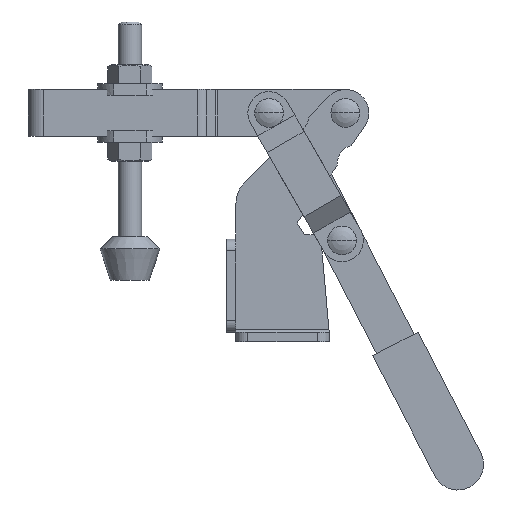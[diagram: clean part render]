
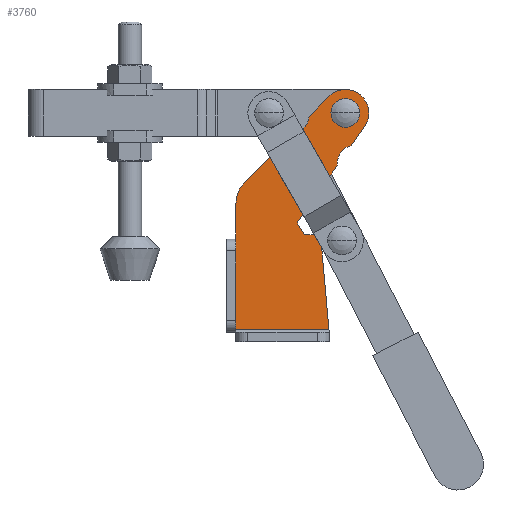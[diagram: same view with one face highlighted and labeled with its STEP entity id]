
A CAD part, front view. The second image highlights one B-rep face of the part: STEP entity #3760.
In plain terms, the highlighted planar face has unit normal (0, -1, 0).
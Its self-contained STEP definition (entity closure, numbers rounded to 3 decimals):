
#1521=CARTESIAN_POINT('Cartesian Point',(0.,-6.4,35.)) ;
#1556=CARTESIAN_POINT('Cartesian Point',(0.,-6.4,4.2)) ;
#1559=CARTESIAN_POINT('Line Origine',(0.,-6.4,19.6)) ;
#1982=CARTESIAN_POINT('Cartesian Point',(26.705,-6.4,36.5)) ;
#1985=CARTESIAN_POINT('Line Origine',(27.972,-6.4,34.245)) ;
#1989=CARTESIAN_POINT('Cartesian Point',(29.239,-6.4,31.99)) ;
#2050=CARTESIAN_POINT('Line Origine',(30.475,-6.4,18.095)) ;
#2054=CARTESIAN_POINT('Cartesian Point',(31.711,-6.4,4.2)) ;
#3369=CARTESIAN_POINT('Line Origine',(0.,-6.4,41.112)) ;
#3373=CARTESIAN_POINT('Cartesian Point',(0.,-6.4,47.223)) ;
#3393=CARTESIAN_POINT('Axis2P3D Location',(10.,-6.4,47.223)) ;
#3397=CARTESIAN_POINT('Cartesian Point',(2.85,-6.4,54.215)) ;
#3417=CARTESIAN_POINT('Line Origine',(11.166,-6.4,62.718)) ;
#3421=CARTESIAN_POINT('Cartesian Point',(19.482,-6.4,71.222)) ;
#3441=CARTESIAN_POINT('Axis2P3D Location',(18.907,-6.4,77.278)) ;
#3445=CARTESIAN_POINT('Cartesian Point',(24.975,-6.4,76.839)) ;
#3465=CARTESIAN_POINT('Line Origine',(28.278,-6.4,80.216)) ;
#3469=CARTESIAN_POINT('Cartesian Point',(31.58,-6.4,83.593)) ;
#3489=CARTESIAN_POINT('Axis2P3D Location',(37.3,-6.4,78.)) ;
#3493=CARTESIAN_POINT('Cartesian Point',(37.251,-6.4,86.)) ;
#3496=CARTESIAN_POINT('Axis2P3D Location',(37.3,-6.4,78.)) ;
#3500=CARTESIAN_POINT('Cartesian Point',(45.3,-6.4,78.032)) ;
#3503=CARTESIAN_POINT('Axis2P3D Location',(37.3,-6.4,78.)) ;
#3507=CARTESIAN_POINT('Cartesian Point',(43.862,-6.4,73.424)) ;
#3531=CARTESIAN_POINT('Line Origine',(41.58,-6.4,70.151)) ;
#3535=CARTESIAN_POINT('Cartesian Point',(39.298,-6.4,66.879)) ;
#3555=CARTESIAN_POINT('Axis2P3D Location',(40.663,-6.4,60.951)) ;
#3559=CARTESIAN_POINT('Cartesian Point',(34.628,-6.4,60.184)) ;
#3579=CARTESIAN_POINT('Line Origine',(33.574,-6.4,58.672)) ;
#3583=CARTESIAN_POINT('Cartesian Point',(32.52,-6.4,57.161)) ;
#3586=CARTESIAN_POINT('Line Origine',(27.675,-6.4,50.215)) ;
#3590=CARTESIAN_POINT('Cartesian Point',(22.83,-6.4,43.268)) ;
#3593=CARTESIAN_POINT('Line Origine',(21.865,-6.4,41.884)) ;
#3597=CARTESIAN_POINT('Cartesian Point',(20.9,-6.4,40.5)) ;
#3621=CARTESIAN_POINT('Line Origine',(22.15,-6.4,38.5)) ;
#3625=CARTESIAN_POINT('Cartesian Point',(23.4,-6.4,36.5)) ;
#3645=CARTESIAN_POINT('Line Origine',(25.053,-6.4,36.5)) ;
#3722=CARTESIAN_POINT('Line Origine',(22.65,-6.4,4.2)) ;
#3734=CARTESIAN_POINT('Axis2P3D Location',(45.3,-6.4,86.)) ;
#1560=DIRECTION('Vector Direction',(0.,0.,1.)) ;
#1986=DIRECTION('Vector Direction',(0.49,0.,-0.872)) ;
#2051=DIRECTION('Vector Direction',(0.089,0.,-0.996)) ;
#3370=DIRECTION('Vector Direction',(0.,0.,1.)) ;
#3394=DIRECTION('Axis2P3D Direction',(0.,-1.,0.)) ;
#3418=DIRECTION('Vector Direction',(0.699,0.,0.715)) ;
#3442=DIRECTION('Axis2P3D Direction',(0.,-1.,0.)) ;
#3466=DIRECTION('Vector Direction',(0.699,0.,0.715)) ;
#3490=DIRECTION('Axis2P3D Direction',(0.,-1.,0.)) ;
#3497=DIRECTION('Axis2P3D Direction',(0.,-1.,0.)) ;
#3504=DIRECTION('Axis2P3D Direction',(0.,-1.,0.)) ;
#3532=DIRECTION('Vector Direction',(0.572,0.,0.82)) ;
#3556=DIRECTION('Axis2P3D Direction',(0.,-1.,0.)) ;
#3580=DIRECTION('Vector Direction',(0.572,0.,0.82)) ;
#3587=DIRECTION('Vector Direction',(0.572,0.,0.82)) ;
#3594=DIRECTION('Vector Direction',(0.572,0.,0.82)) ;
#3622=DIRECTION('Vector Direction',(0.53,0.,-0.848)) ;
#3646=DIRECTION('Vector Direction',(1.,0.,0.)) ;
#3723=DIRECTION('Vector Direction',(-1.,0.,0.)) ;
#3735=DIRECTION('Axis2P3D Direction',(0.,1.,0.)) ;
#3736=DIRECTION('Axis2P3D XDirection',(1.,0.,0.)) ;
#3395=AXIS2_PLACEMENT_3D('Circle Axis2P3D',#3393,#3394,$) ;
#3443=AXIS2_PLACEMENT_3D('Circle Axis2P3D',#3441,#3442,$) ;
#3491=AXIS2_PLACEMENT_3D('Circle Axis2P3D',#3489,#3490,$) ;
#3498=AXIS2_PLACEMENT_3D('Circle Axis2P3D',#3496,#3497,$) ;
#3505=AXIS2_PLACEMENT_3D('Circle Axis2P3D',#3503,#3504,$) ;
#3557=AXIS2_PLACEMENT_3D('Circle Axis2P3D',#3555,#3556,$) ;
#3737=AXIS2_PLACEMENT_3D('Plane Axis2P3D',#3734,#3735,#3736) ;
#3740=ORIENTED_EDGE('Oriented Edge',*,*,#3726,.F.) ;
#3741=ORIENTED_EDGE('Oriented Edge',*,*,#2056,.F.) ;
#3742=ORIENTED_EDGE('Oriented Edge',*,*,#1991,.F.) ;
#3743=ORIENTED_EDGE('Oriented Edge',*,*,#3649,.F.) ;
#3744=ORIENTED_EDGE('Oriented Edge',*,*,#3627,.F.) ;
#3745=ORIENTED_EDGE('Oriented Edge',*,*,#3599,.T.) ;
#3746=ORIENTED_EDGE('Oriented Edge',*,*,#3592,.T.) ;
#3747=ORIENTED_EDGE('Oriented Edge',*,*,#3585,.T.) ;
#3748=ORIENTED_EDGE('Oriented Edge',*,*,#3561,.T.) ;
#3749=ORIENTED_EDGE('Oriented Edge',*,*,#3537,.T.) ;
#3750=ORIENTED_EDGE('Oriented Edge',*,*,#3509,.F.) ;
#3751=ORIENTED_EDGE('Oriented Edge',*,*,#3502,.F.) ;
#3752=ORIENTED_EDGE('Oriented Edge',*,*,#3495,.F.) ;
#3753=ORIENTED_EDGE('Oriented Edge',*,*,#3471,.F.) ;
#3754=ORIENTED_EDGE('Oriented Edge',*,*,#3447,.T.) ;
#3755=ORIENTED_EDGE('Oriented Edge',*,*,#3423,.F.) ;
#3756=ORIENTED_EDGE('Oriented Edge',*,*,#3399,.F.) ;
#3757=ORIENTED_EDGE('Oriented Edge',*,*,#3375,.F.) ;
#3758=ORIENTED_EDGE('Oriented Edge',*,*,#1563,.F.) ;
#1561=VECTOR('Line Direction',#1560,1.) ;
#1987=VECTOR('Line Direction',#1986,1.) ;
#2052=VECTOR('Line Direction',#2051,1.) ;
#3371=VECTOR('Line Direction',#3370,1.) ;
#3419=VECTOR('Line Direction',#3418,1.) ;
#3467=VECTOR('Line Direction',#3466,1.) ;
#3533=VECTOR('Line Direction',#3532,1.) ;
#3581=VECTOR('Line Direction',#3580,1.) ;
#3588=VECTOR('Line Direction',#3587,1.) ;
#3595=VECTOR('Line Direction',#3594,1.) ;
#3623=VECTOR('Line Direction',#3622,1.) ;
#3647=VECTOR('Line Direction',#3646,1.) ;
#3724=VECTOR('Line Direction',#3723,1.) ;
#3760=ADVANCED_FACE('',(#3759),#3738,.F.) ;
#3396=CIRCLE('generated circle',#3395,10.) ;
#3444=CIRCLE('generated circle',#3443,6.083) ;
#3492=CIRCLE('generated circle',#3491,8.) ;
#3499=CIRCLE('generated circle',#3498,8.) ;
#3506=CIRCLE('generated circle',#3505,8.) ;
#3558=CIRCLE('generated circle',#3557,6.083) ;
#1563=EDGE_CURVE('',#1557,#1522,#1562,.T.) ;
#1991=EDGE_CURVE('',#1983,#1990,#1988,.T.) ;
#2056=EDGE_CURVE('',#1990,#2055,#2053,.T.) ;
#3375=EDGE_CURVE('',#1522,#3374,#3372,.T.) ;
#3399=EDGE_CURVE('',#3374,#3398,#3396,.F.) ;
#3423=EDGE_CURVE('',#3398,#3422,#3420,.T.) ;
#3447=EDGE_CURVE('',#3446,#3422,#3444,.F.) ;
#3471=EDGE_CURVE('',#3446,#3470,#3468,.T.) ;
#3495=EDGE_CURVE('',#3470,#3494,#3492,.F.) ;
#3502=EDGE_CURVE('',#3494,#3501,#3499,.F.) ;
#3509=EDGE_CURVE('',#3501,#3508,#3506,.F.) ;
#3537=EDGE_CURVE('',#3536,#3508,#3534,.T.) ;
#3561=EDGE_CURVE('',#3560,#3536,#3558,.F.) ;
#3585=EDGE_CURVE('',#3584,#3560,#3582,.T.) ;
#3592=EDGE_CURVE('',#3591,#3584,#3589,.T.) ;
#3599=EDGE_CURVE('',#3598,#3591,#3596,.T.) ;
#3627=EDGE_CURVE('',#3598,#3626,#3624,.T.) ;
#3649=EDGE_CURVE('',#3626,#1983,#3648,.T.) ;
#3726=EDGE_CURVE('',#2055,#1557,#3725,.T.) ;
#3739=EDGE_LOOP('Oriented Loop',(#3740,#3741,#3742,#3743,#3744,#3745,#3746,#3747,#3748,#3749,#3750,#3751,#3752,#3753,#3754,#3755,#3756,#3757,#3758)) ;
#3759=FACE_OUTER_BOUND('Face Bound',#3739,.T.) ;
#1562=LINE('Line',#1559,#1561) ;
#1988=LINE('Line',#1985,#1987) ;
#2053=LINE('Line',#2050,#2052) ;
#3372=LINE('Line',#3369,#3371) ;
#3420=LINE('Line',#3417,#3419) ;
#3468=LINE('Line',#3465,#3467) ;
#3534=LINE('Line',#3531,#3533) ;
#3582=LINE('Line',#3579,#3581) ;
#3589=LINE('Line',#3586,#3588) ;
#3596=LINE('Line',#3593,#3595) ;
#3624=LINE('Line',#3621,#3623) ;
#3648=LINE('Line',#3645,#3647) ;
#3725=LINE('Line',#3722,#3724) ;
#3738=PLANE('Plane',#3737) ;
#1522=VERTEX_POINT('Vertex Point',#1521) ;
#1557=VERTEX_POINT('Vertex Point',#1556) ;
#1983=VERTEX_POINT('Vertex Point',#1982) ;
#1990=VERTEX_POINT('Vertex Point',#1989) ;
#2055=VERTEX_POINT('Vertex Point',#2054) ;
#3374=VERTEX_POINT('Vertex Point',#3373) ;
#3398=VERTEX_POINT('Vertex Point',#3397) ;
#3422=VERTEX_POINT('Vertex Point',#3421) ;
#3446=VERTEX_POINT('Vertex Point',#3445) ;
#3470=VERTEX_POINT('Vertex Point',#3469) ;
#3494=VERTEX_POINT('Vertex Point',#3493) ;
#3501=VERTEX_POINT('Vertex Point',#3500) ;
#3508=VERTEX_POINT('Vertex Point',#3507) ;
#3536=VERTEX_POINT('Vertex Point',#3535) ;
#3560=VERTEX_POINT('Vertex Point',#3559) ;
#3584=VERTEX_POINT('Vertex Point',#3583) ;
#3591=VERTEX_POINT('Vertex Point',#3590) ;
#3598=VERTEX_POINT('Vertex Point',#3597) ;
#3626=VERTEX_POINT('Vertex Point',#3625) ;
